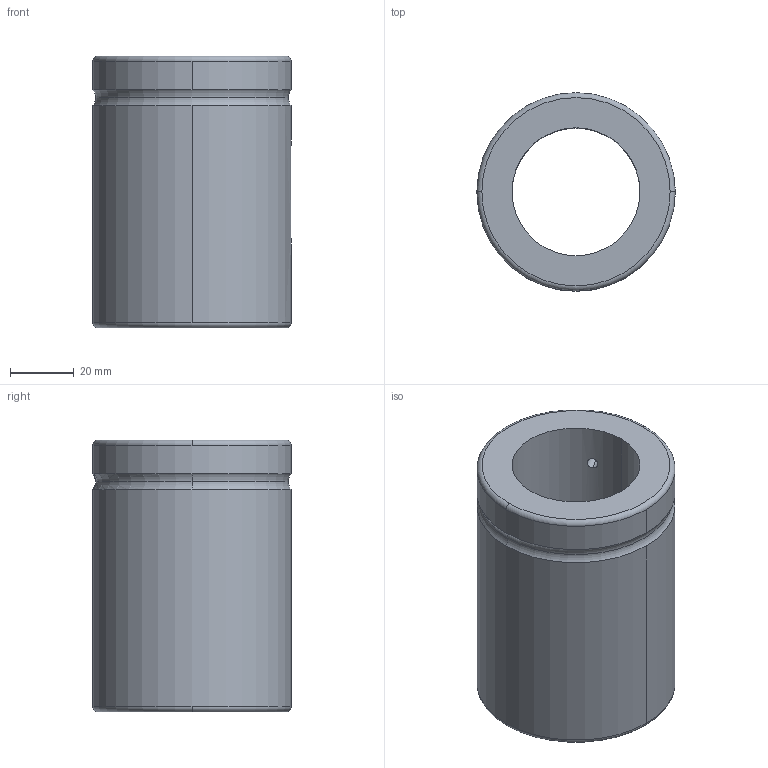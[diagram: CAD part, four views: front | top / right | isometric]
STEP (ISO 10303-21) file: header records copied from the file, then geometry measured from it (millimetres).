
FILE_DESCRIPTION(('STEP AP214'),'1');
FILE_NAME('cgr4010sciw6_3585-.stp','2025-04-30T06:56:24',('TraceParts'),('TraceParts S.A.'),'Spatial InterOp 3D',' ',' ');
FILE_SCHEMA(('AUTOMOTIVE_DESIGN { 1 0 10303 214 1 1 1 1 }'));
Length unit declared in the file: millimetre
Products named in the file (1): cgr4010sciw6_3585-
Bounding box: 62 x 62 x 85 mm (x, y, z)
Volume: 148506.1 mm3; surface area: 30844.6 mm2
Topology: 1 solids, 1 shells, 25 faces, 70 edges, 47 vertices
Faces by surface type: cylinder 12, torus 8, plane 5
Entity records: 1314 total; most frequent: CARTESIAN_POINT 422, DIRECTION 152, ORIENTED_EDGE 140, EDGE_CURVE 70, AXIS2_PLACEMENT_3D 67, VERTEX_POINT 47, CIRCLE 41, EDGE_LOOP 29
